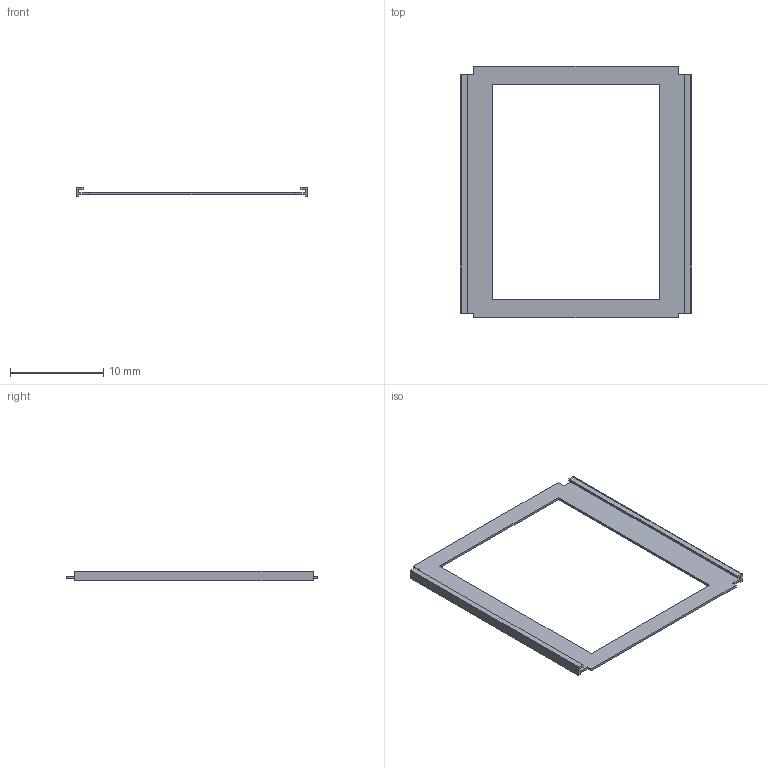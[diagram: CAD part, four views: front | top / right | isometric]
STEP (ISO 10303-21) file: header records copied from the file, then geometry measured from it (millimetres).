
FILE_DESCRIPTION(('Open CASCADE Model'),'2;1');
FILE_NAME('Open CASCADE Shape Model','2026-09-13T17:41:39',('Author'),( 'Open CASCADE'),'Open CASCADE STEP processor 7.8','Open CASCADE 7.8' ,'Unknown');
FILE_SCHEMA(('AUTOMOTIVE_DESIGN { 1 0 10303 214 1 1 1 1 }'));
Length unit declared in the file: millimetre
Products named in the file (1): Open CASCADE STEP translator 7.8 5
Bounding box: 24.8 x 27 x 1.02 mm (x, y, z)
Volume: 78.5 mm3; surface area: 676.4 mm2
Topology: 1 solids, 1 shells, 34 faces, 96 edges, 64 vertices
Faces by surface type: plane 34
Entity records: 2342 total; most frequent: CARTESIAN_POINT 387, DIRECTION 358, LINE 288, VECTOR 288, ORIENTED_EDGE 192, PCURVE 192, DEFINITIONAL_REPRESENTATION 192, EDGE_CURVE 96
